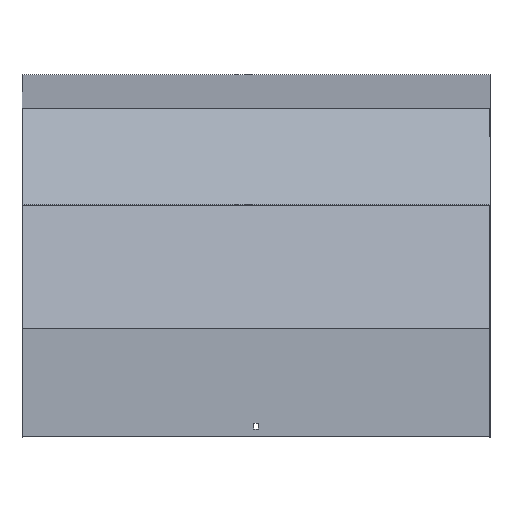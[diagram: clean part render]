
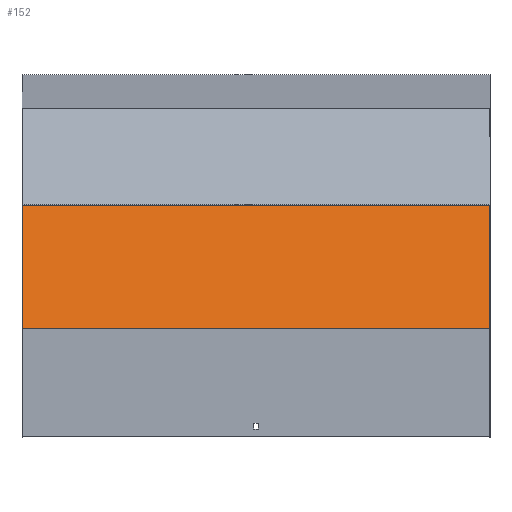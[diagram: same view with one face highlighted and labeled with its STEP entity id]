
A CAD part, top view. The second image highlights one B-rep face of the part: STEP entity #152.
In plain terms, the highlighted planar face has unit normal (0, 0.259, 0.966).
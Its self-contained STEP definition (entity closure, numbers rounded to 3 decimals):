
#26 = EDGE_CURVE ( 'NONE', #899, #1118, #1052, .T. ) ;
#29 = VECTOR ( 'NONE', #701, 1000. ) ;
#33 = CARTESIAN_POINT ( 'NONE',  ( 351.5, -361.831, 544.464 ) ) ;
#106 = DIRECTION ( 'NONE',  ( 0., -0.966, 0.259 ) ) ;
#110 = VERTEX_POINT ( 'NONE', #592 ) ;
#140 = PLANE ( 'NONE',  #618 ) ;
#152 = ADVANCED_FACE ( 'NONE', ( #551 ), #140, .F. ) ;
#194 = LINE ( 'NONE', #1041, #231 ) ;
#196 = ORIENTED_EDGE ( 'NONE', *, *, #957, .T. ) ;
#218 = LINE ( 'NONE', #651, #347 ) ;
#231 = VECTOR ( 'NONE', #106, 1000. ) ;
#347 = VECTOR ( 'NONE', #1081, 1000. ) ;
#400 = CARTESIAN_POINT ( 'NONE',  ( -351.5, -175.415, 494.514 ) ) ;
#551 = FACE_OUTER_BOUND ( 'NONE', #739, .T. ) ;
#568 = DIRECTION ( 'NONE',  ( 0., 0.966, -0.259 ) ) ;
#592 = CARTESIAN_POINT ( 'NONE',  ( 351.5, -175.415, 494.514 ) ) ;
#602 = CARTESIAN_POINT ( 'NONE',  ( 351.5, -361.831, 544.464 ) ) ;
#618 = AXIS2_PLACEMENT_3D ( 'NONE', #998, #832, #568 ) ;
#636 = DIRECTION ( 'NONE',  ( 0., -0.966, 0.259 ) ) ;
#651 = CARTESIAN_POINT ( 'NONE',  ( 351.5, -175.415, 494.514 ) ) ;
#663 = EDGE_CURVE ( 'NONE', #855, #1118, #1110, .T. ) ;
#696 = CARTESIAN_POINT ( 'NONE',  ( -351.5, -361.831, 544.464 ) ) ;
#701 = DIRECTION ( 'NONE',  ( -1., 0., 0. ) ) ;
#709 = VECTOR ( 'NONE', #636, 1000. ) ;
#739 = EDGE_LOOP ( 'NONE', ( #864, #772, #1053, #196 ) ) ;
#772 = ORIENTED_EDGE ( 'NONE', *, *, #663, .F. ) ;
#798 = CARTESIAN_POINT ( 'NONE',  ( -351.5, -180.591, 495.901 ) ) ;
#832 = DIRECTION ( 'NONE',  ( 0., -0.259, -0.966 ) ) ;
#855 = VERTEX_POINT ( 'NONE', #33 ) ;
#864 = ORIENTED_EDGE ( 'NONE', *, *, #26, .T. ) ;
#865 = EDGE_CURVE ( 'NONE', #110, #855, #194, .T. ) ;
#899 = VERTEX_POINT ( 'NONE', #400 ) ;
#957 = EDGE_CURVE ( 'NONE', #110, #899, #218, .T. ) ;
#998 = CARTESIAN_POINT ( 'NONE',  ( 351.5, -180.591, 495.901 ) ) ;
#1041 = CARTESIAN_POINT ( 'NONE',  ( 351.5, -180.591, 495.901 ) ) ;
#1052 = LINE ( 'NONE', #798, #709 ) ;
#1053 = ORIENTED_EDGE ( 'NONE', *, *, #865, .F. ) ;
#1081 = DIRECTION ( 'NONE',  ( -1., 0., 0. ) ) ;
#1110 = LINE ( 'NONE', #602, #29 ) ;
#1118 = VERTEX_POINT ( 'NONE', #696 ) ;
